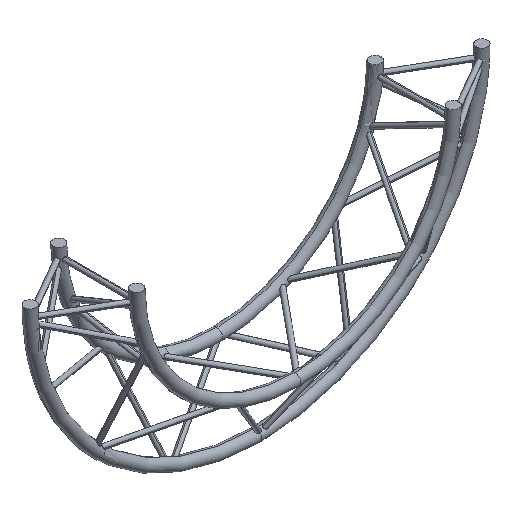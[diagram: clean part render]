
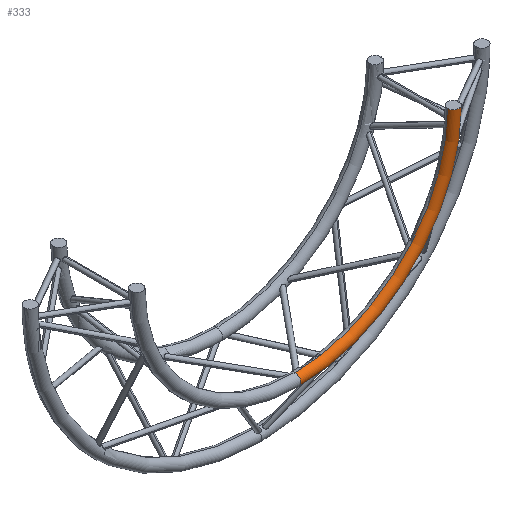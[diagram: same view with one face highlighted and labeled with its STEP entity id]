
A CAD part, isometric view. The second image highlights one B-rep face of the part: STEP entity #333.
In plain terms, the highlighted toroidal (fillet/blend) face has major radius 683.149 mm and minor radius 25 mm.
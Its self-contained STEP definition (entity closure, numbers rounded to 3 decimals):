
#333 = ADVANCED_FACE ( 'NONE', ( #1340 ), #1341, .T. ) ;
#335 = VERTEX_POINT ( 'NONE', #1396 ) ;
#337 = ORIENTED_EDGE ( 'NONE', *, *, #339, .F. ) ;
#338 = VERTEX_POINT ( 'NONE', #1395 ) ;
#339 = EDGE_CURVE ( 'NONE', #335, #338, #1394, .T. ) ;
#340 = EDGE_CURVE ( 'NONE', #352, #338, #1389, .T. ) ;
#341 = EDGE_CURVE ( 'NONE', #343, #335, #1384, .T. ) ;
#343 = VERTEX_POINT ( 'NONE', #1379 ) ;
#345 = ORIENTED_EDGE ( 'NONE', *, *, #340, .T. ) ;
#351 = EDGE_CURVE ( 'NONE', #352, #343, #1428, .T. ) ;
#352 = VERTEX_POINT ( 'NONE', #1424 ) ;
#355 = ORIENTED_EDGE ( 'NONE', *, *, #341, .F. ) ;
#363 = ORIENTED_EDGE ( 'NONE', *, *, #351, .F. ) ;
#365 = EDGE_LOOP ( 'NONE', ( #363, #345, #337, #355 ) ) ;
#1340 = FACE_OUTER_BOUND ( 'NONE', #365, .T. ) ;
#1341 = TOROIDAL_SURFACE ( 'NONE', #1345, 683.149, 25. ) ;
#1342 = DIRECTION ( 'NONE',  ( 0., 0., -1. ) ) ;
#1343 = DIRECTION ( 'NONE',  ( 0., -1., 0. ) ) ;
#1344 = CARTESIAN_POINT ( 'NONE',  ( 0., -168.5, 0. ) ) ;
#1345 = AXIS2_PLACEMENT_3D ( 'NONE', #1344, #1343, #1342 ) ;
#1367 = CARTESIAN_POINT ( 'NONE',  ( 0., -168.5, -683.149 ) ) ;
#1379 = CARTESIAN_POINT ( 'NONE',  ( 0., -168.5, -658.149 ) ) ;
#1380 = DIRECTION ( 'NONE',  ( 0., 0., -1. ) ) ;
#1381 = DIRECTION ( 'NONE',  ( 0., -1., 0. ) ) ;
#1382 = CARTESIAN_POINT ( 'NONE',  ( 0., -168.5, 0. ) ) ;
#1383 = AXIS2_PLACEMENT_3D ( 'NONE', #1382, #1381, #1380 ) ;
#1384 = CIRCLE ( 'NONE', #1383, 658.149 ) ;
#1385 = DIRECTION ( 'NONE',  ( 0., 0., -1. ) ) ;
#1386 = DIRECTION ( 'NONE',  ( 0., -1., 0. ) ) ;
#1387 = CARTESIAN_POINT ( 'NONE',  ( 0., -168.5, 0. ) ) ;
#1388 = AXIS2_PLACEMENT_3D ( 'NONE', #1387, #1386, #1385 ) ;
#1389 = CIRCLE ( 'NONE', #1388, 708.149 ) ;
#1390 = DIRECTION ( 'NONE',  ( 1., 0., 0. ) ) ;
#1391 = DIRECTION ( 'NONE',  ( 0., 0., 1. ) ) ;
#1392 = CARTESIAN_POINT ( 'NONE',  ( 683.149, -168.5, 0. ) ) ;
#1393 = AXIS2_PLACEMENT_3D ( 'NONE', #1392, #1391, #1390 ) ;
#1394 = CIRCLE ( 'NONE', #1393, 25. ) ;
#1395 = CARTESIAN_POINT ( 'NONE',  ( 708.149, -168.5, 0. ) ) ;
#1396 = CARTESIAN_POINT ( 'NONE',  ( 658.149, -168.5, 0. ) ) ;
#1424 = CARTESIAN_POINT ( 'NONE',  ( 0., -168.5, -708.149 ) ) ;
#1425 = DIRECTION ( 'NONE',  ( 0., 0., 1. ) ) ;
#1426 = DIRECTION ( 'NONE',  ( -1., 0., 0. ) ) ;
#1427 = AXIS2_PLACEMENT_3D ( 'NONE', #1367, #1426, #1425 ) ;
#1428 = CIRCLE ( 'NONE', #1427, 25. ) ;
